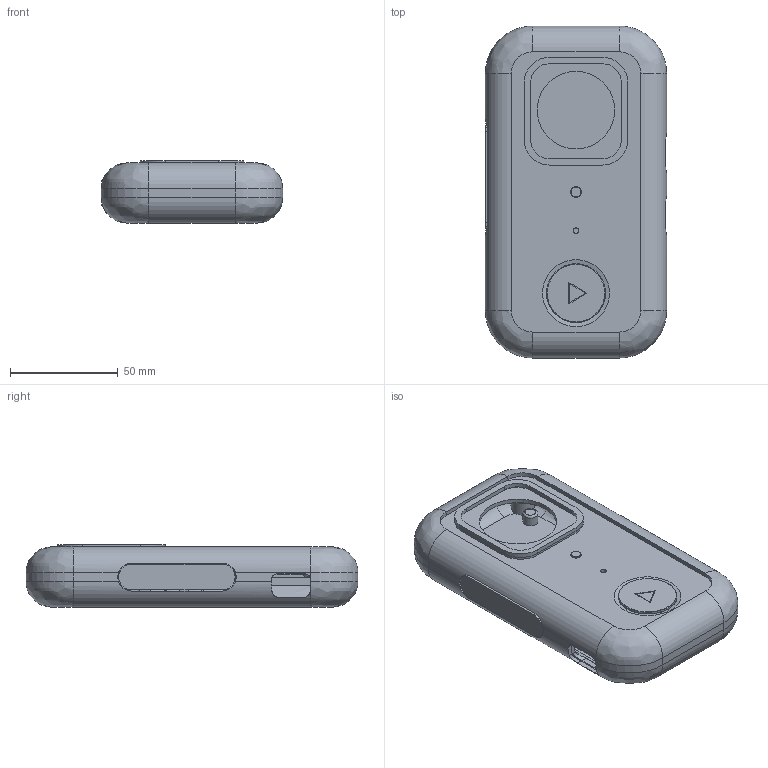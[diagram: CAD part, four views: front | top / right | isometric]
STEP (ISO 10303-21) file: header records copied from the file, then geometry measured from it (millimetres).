
FILE_DESCRIPTION(/* description */ (''),/* implementation_level */ '2;1');
FILE_NAME(/* name */ 'Walkie_One_28_7_13_BODY_REVIEW_ASSEMBLY.step',/* time_stamp */ '2026-09-20T10:25:49-07:00',/* author */ (''),/* organization */ (''),/* preprocessor_version */ 'ST-DEVELOPER v20.2',/* originating_system */ 'Autodesk Translation Framework v15.15.0.0',/* authorisation */ '');
FILE_SCHEMA (('AUTOMOTIVE_DESIGN { 1 0 10303 214 3 1 1 }'));
Length unit declared in the file: millimetre
Products named in the file (14): 2026-09-20-10-25-48-183; 2026-09-20-10-25-48-383; 2026-09-20-10-25-48-459; 2026-09-20-10-25-48-509; 2026-09-20-10-25-48-549; 2026-09-20-10-25-48-585; 2026-09-20-10-25-48-611; 2026-09-20-10-25-48-635; 2026-09-20-10-25-48-866; 2026-09-20-10-25-49-029; 2026-09-20-10-25-49-058; 2026-09-20-10-25-49-091; 2026-09-20-10-25-49-133; 2026-09-20-10-25-49-161
Assembly tree (13 placements, depth 2):
  2026-09-20-10-25-48-183
    2026-09-20-10-25-48-383
    2026-09-20-10-25-48-459
    2026-09-20-10-25-48-509
    2026-09-20-10-25-48-549
    2026-09-20-10-25-48-585
    2026-09-20-10-25-48-611
    2026-09-20-10-25-48-635
    2026-09-20-10-25-48-866
    2026-09-20-10-25-49-029
    2026-09-20-10-25-49-058
    2026-09-20-10-25-49-091
    2026-09-20-10-25-49-133
    2026-09-20-10-25-49-161
Bounding box: 84.2 x 154.2 x 28.95 mm (x, y, z)
Volume: 99739.4 mm3; surface area: 102085.4 mm2
Topology: 13 solids, 13 shells, 751 faces, 1937 edges, 1246 vertices
Faces by surface type: plane 389, cylinder 275, bspline 40, torus 31, cone 16
Full cylindrical faces by diameter (mm): 2 x9, 2.6 x1, 2.602 x1, 3 x8, 3.1 x1, 3.101 x1, 4.3 x1, 4.7 x1, 5.01 x1, 5.2 x1, 5.4 x1, 5.5 x6, 6 x4, 6.189 x1, 6.5 x2, 7 x3, 26.8 x1, 27 x1, 27.3 x1, 27.4 x1, 36 x1
Entity records: 26170 total; most frequent: CARTESIAN_POINT 7367, ORIENTED_EDGE 3874, DIRECTION 3823, EDGE_CURVE 1937, AXIS2_PLACEMENT_3D 1346, VERTEX_POINT 1246, LINE 1131, VECTOR 1131
